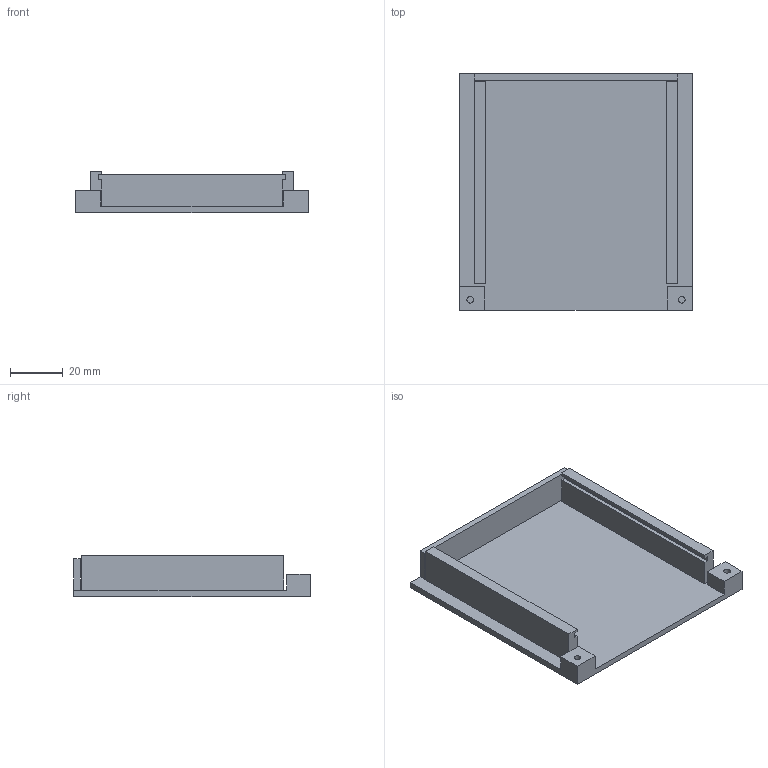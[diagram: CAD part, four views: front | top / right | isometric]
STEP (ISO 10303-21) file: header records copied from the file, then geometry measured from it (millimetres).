
FILE_DESCRIPTION(('Open CASCADE Model'),'2;1');
FILE_NAME('Open CASCADE Shape Model','2026-10-06T09:51:05',('Author'),( 'Open CASCADE'),'Open CASCADE STEP processor 7.9','Open CASCADE 7.9' ,'Unknown');
FILE_SCHEMA(('AUTOMOTIVE_DESIGN { 1 0 10303 214 1 1 1 1 }'));
Length unit declared in the file: millimetre
Products named in the file (1): Open CASCADE STEP translator 7.9 5
Bounding box: 88 x 89.5 x 15.6 mm (x, y, z)
Volume: 30473.8 mm3; surface area: 23691.3 mm2
Topology: 1 solids, 1 shells, 38 faces, 96 edges, 64 vertices
Faces by surface type: plane 36, cylinder 2
Full cylindrical faces by diameter (mm): 2.5 x2
Entity records: 2350 total; most frequent: CARTESIAN_POINT 423, DIRECTION 338, LINE 248, VECTOR 248, ORIENTED_EDGE 192, PCURVE 192, DEFINITIONAL_REPRESENTATION 192, EDGE_CURVE 96
